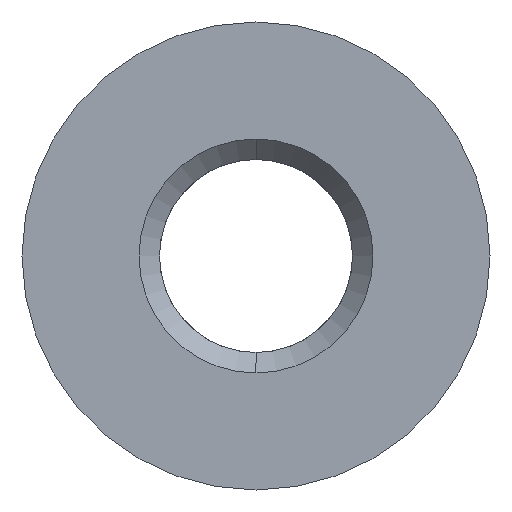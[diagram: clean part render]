
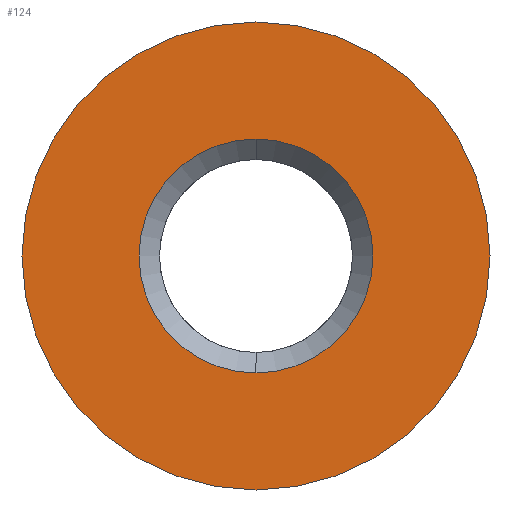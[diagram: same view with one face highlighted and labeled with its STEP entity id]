
A CAD part, left-side view. The second image highlights one B-rep face of the part: STEP entity #124.
In plain terms, the highlighted planar face has unit normal (-1, 0, 0).
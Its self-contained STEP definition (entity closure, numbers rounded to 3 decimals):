
#3 = CARTESIAN_POINT ( 'NONE',  ( -8.89, 1.65, 0. ) ) ;
#87 = ORIENTED_EDGE ( 'NONE', *, *, #849, .F. ) ;
#105 = CIRCLE ( 'NONE', #741, 2. ) ;
#112 = VERTEX_POINT ( 'NONE', #340 ) ;
#124 = ADVANCED_FACE ( 'NONE', ( #464, #334 ), #613, .T. ) ;
#186 = DIRECTION ( 'NONE',  ( 0., 0., -1. ) ) ;
#206 = DIRECTION ( 'NONE',  ( 0., 0., 1. ) ) ;
#254 = ORIENTED_EDGE ( 'NONE', *, *, #664, .T. ) ;
#315 = ORIENTED_EDGE ( 'NONE', *, *, #451, .F. ) ;
#334 = FACE_OUTER_BOUND ( 'NONE', #521, .T. ) ;
#340 = CARTESIAN_POINT ( 'NONE',  ( -8.89, 0., 4. ) ) ;
#384 = EDGE_CURVE ( 'NONE', #646, #789, #105, .T. ) ;
#385 = AXIS2_PLACEMENT_3D ( 'NONE', #3, #820, #206 ) ;
#404 = AXIS2_PLACEMENT_3D ( 'NONE', #727, #801, #186 ) ;
#444 = DIRECTION ( 'NONE',  ( 0., 0., 1. ) ) ;
#451 = EDGE_CURVE ( 'NONE', #112, #834, #754, .T. ) ;
#464 = FACE_BOUND ( 'NONE', #659, .T. ) ;
#469 = ORIENTED_EDGE ( 'NONE', *, *, #384, .T. ) ;
#475 = CIRCLE ( 'NONE', #682, 2. ) ;
#478 = DIRECTION ( 'NONE',  ( 0., 0., -1. ) ) ;
#520 = DIRECTION ( 'NONE',  ( 1., 0., 0. ) ) ;
#521 = EDGE_LOOP ( 'NONE', ( #87, #315 ) ) ;
#609 = AXIS2_PLACEMENT_3D ( 'NONE', #866, #722, #478 ) ;
#613 = PLANE ( 'NONE',  #385 ) ;
#635 = CARTESIAN_POINT ( 'NONE',  ( -8.89, 0., 0. ) ) ;
#644 = DIRECTION ( 'NONE',  ( 0., 0., 1. ) ) ;
#646 = VERTEX_POINT ( 'NONE', #703 ) ;
#659 = EDGE_LOOP ( 'NONE', ( #469, #254 ) ) ;
#661 = CARTESIAN_POINT ( 'NONE',  ( -8.89, 0., -2. ) ) ;
#664 = EDGE_CURVE ( 'NONE', #789, #646, #475, .T. ) ;
#682 = AXIS2_PLACEMENT_3D ( 'NONE', #635, #700, #644 ) ;
#700 = DIRECTION ( 'NONE',  ( 1., 0., 0. ) ) ;
#703 = CARTESIAN_POINT ( 'NONE',  ( -8.89, 0., 2. ) ) ;
#722 = DIRECTION ( 'NONE',  ( 1., 0., 0. ) ) ;
#727 = CARTESIAN_POINT ( 'NONE',  ( -8.89, 0., 0. ) ) ;
#741 = AXIS2_PLACEMENT_3D ( 'NONE', #873, #520, #444 ) ;
#754 = CIRCLE ( 'NONE', #609, 4. ) ;
#789 = VERTEX_POINT ( 'NONE', #661 ) ;
#801 = DIRECTION ( 'NONE',  ( 1., 0., 0. ) ) ;
#820 = DIRECTION ( 'NONE',  ( -1., 0., 0. ) ) ;
#834 = VERTEX_POINT ( 'NONE', #861 ) ;
#839 = CIRCLE ( 'NONE', #404, 4. ) ;
#849 = EDGE_CURVE ( 'NONE', #834, #112, #839, .T. ) ;
#861 = CARTESIAN_POINT ( 'NONE',  ( -8.89, 0., -4. ) ) ;
#866 = CARTESIAN_POINT ( 'NONE',  ( -8.89, 0., 0. ) ) ;
#873 = CARTESIAN_POINT ( 'NONE',  ( -8.89, 0., 0. ) ) ;
